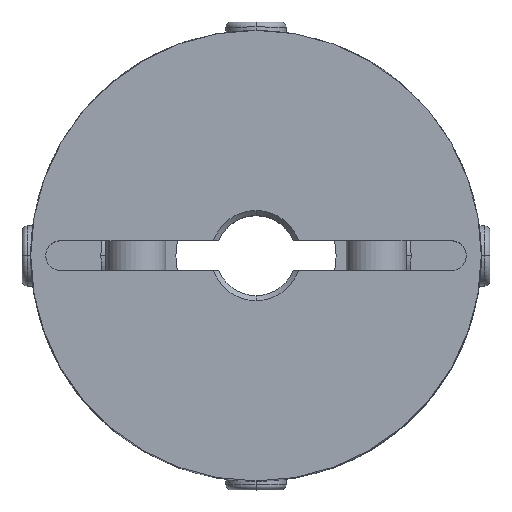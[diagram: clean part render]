
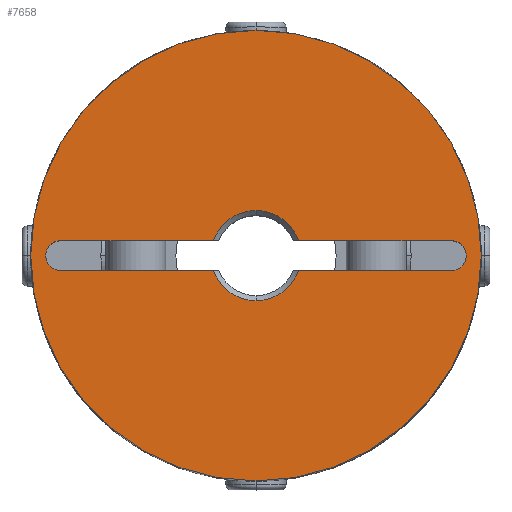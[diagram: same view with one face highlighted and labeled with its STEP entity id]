
A CAD part, top view. The second image highlights one B-rep face of the part: STEP entity #7658.
In plain terms, the highlighted planar face has unit normal (0, 0, 1).
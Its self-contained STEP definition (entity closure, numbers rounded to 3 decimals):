
#979=CARTESIAN_POINT('',(0.,22.5,22.5));
#980=VERTEX_POINT('',#979);
#987=CARTESIAN_POINT('',(0.,-22.5,22.5));
#988=VERTEX_POINT('',#987);
#989=CARTESIAN_POINT('',(0.0,0.0,22.5));
#990=DIRECTION('',(0.0,0.0,-1.0));
#991=DIRECTION('',(0.0,-1.0,0.0));
#992=AXIS2_PLACEMENT_3D('',#989,#990,#991);
#993=CIRCLE('',#992,22.5);
#994=EDGE_CURVE('',#980,#988,#993,.T.);
#1309=CARTESIAN_POINT('',(20.561,1.061,22.5));
#1310=VERTEX_POINT('',#1309);
#1326=CARTESIAN_POINT('',(19.5,-1.5,22.5));
#1327=VERTEX_POINT('',#1326);
#1334=CARTESIAN_POINT('',(19.5,0.,22.5));
#1335=DIRECTION('',(0.0,0.0,1.0));
#1336=DIRECTION('',(0.707,-0.707,0.0));
#1337=AXIS2_PLACEMENT_3D('',#1334,#1335,#1336);
#1338=CIRCLE('',#1337,1.5);
#1339=EDGE_CURVE('',#1327,#1310,#1338,.T.);
#1351=CARTESIAN_POINT('',(-20.561,-1.061,22.5));
#1352=VERTEX_POINT('',#1351);
#1368=CARTESIAN_POINT('',(-19.5,1.5,22.5));
#1369=VERTEX_POINT('',#1368);
#1376=CARTESIAN_POINT('',(-19.5,0.,22.5));
#1377=DIRECTION('',(0.0,0.0,1.0));
#1378=DIRECTION('',(-0.707,0.707,0.0));
#1379=AXIS2_PLACEMENT_3D('',#1376,#1377,#1378);
#1380=CIRCLE('',#1379,1.5);
#1381=EDGE_CURVE('',#1369,#1352,#1380,.T.);
#2105=CARTESIAN_POINT('',(0.,4.5,22.5));
#2106=VERTEX_POINT('',#2105);
#2114=CARTESIAN_POINT('',(4.243,1.5,22.5));
#2115=VERTEX_POINT('',#2114);
#2129=CARTESIAN_POINT('',(0.0,0.0,22.5));
#2130=DIRECTION('',(0.0,0.0,1.0));
#2131=DIRECTION('',(0.0,1.0,0.0));
#2132=AXIS2_PLACEMENT_3D('',#2129,#2130,#2131);
#2133=CIRCLE('',#2132,4.5);
#2134=EDGE_CURVE('',#2115,#2106,#2133,.T.);
#2144=CARTESIAN_POINT('',(0.,-4.5,22.5));
#2145=VERTEX_POINT('',#2144);
#2161=CARTESIAN_POINT('',(-4.243,-1.5,22.5));
#2162=VERTEX_POINT('',#2161);
#2176=CARTESIAN_POINT('',(0.0,0.0,22.5));
#2177=DIRECTION('',(0.0,0.0,1.0));
#2178=DIRECTION('',(0.0,-1.0,0.0));
#2179=AXIS2_PLACEMENT_3D('',#2176,#2177,#2178);
#2180=CIRCLE('',#2179,4.5);
#2181=EDGE_CURVE('',#2162,#2145,#2180,.T.);
#7396=CARTESIAN_POINT('',(19.5,1.5,22.5));
#7397=VERTEX_POINT('',#7396);
#7404=CARTESIAN_POINT('',(4.243,1.5,22.5));
#7405=DIRECTION('',(1.0,0.0,0.0));
#7406=VECTOR('',#7405,15.257);
#7407=LINE('',#7404,#7406);
#7408=EDGE_CURVE('',#2115,#7397,#7407,.T.);
#7543=CARTESIAN_POINT('',(4.243,-1.5,22.5));
#7544=VERTEX_POINT('',#7543);
#7558=CARTESIAN_POINT('',(19.5,-1.5,22.5));
#7559=DIRECTION('',(-1.0,0.0,0.0));
#7560=VECTOR('',#7559,15.257);
#7561=LINE('',#7558,#7560);
#7562=EDGE_CURVE('',#1327,#7544,#7561,.T.);
#7585=CARTESIAN_POINT('',(0.0,0.0,22.5));
#7586=DIRECTION('',(0.0,0.0,1.0));
#7587=DIRECTION('',(0.0,-1.0,0.0));
#7588=AXIS2_PLACEMENT_3D('',#7585,#7586,#7587);
#7589=CIRCLE('',#7588,4.5);
#7590=EDGE_CURVE('',#2145,#7544,#7589,.T.);
#7597=CARTESIAN_POINT('',(0.,-2.045,22.5));
#7598=DIRECTION('',(0.0,0.0,1.0));
#7599=DIRECTION('',(0.0,-1.0,0.0));
#7600=AXIS2_PLACEMENT_3D('',#7597,#7598,#7599);
#7601=PLANE('',#7600);
#7602=CARTESIAN_POINT('',(0.0,0.0,22.5));
#7603=DIRECTION('',(0.0,0.0,-1.0));
#7604=DIRECTION('',(0.0,-1.0,0.0));
#7605=AXIS2_PLACEMENT_3D('',#7602,#7603,#7604);
#7606=CIRCLE('',#7605,22.5);
#7607=EDGE_CURVE('',#988,#980,#7606,.T.);
#7608=ORIENTED_EDGE('',*,*,#7607,.F.);
#7609=ORIENTED_EDGE('',*,*,#994,.F.);
#7610=EDGE_LOOP('',(#7608,#7609));
#7611=FACE_OUTER_BOUND('',#7610,.T.);
#7612=ORIENTED_EDGE('',*,*,#2181,.F.);
#7613=CARTESIAN_POINT('',(-19.5,-1.5,22.5));
#7614=VERTEX_POINT('',#7613);
#7615=CARTESIAN_POINT('',(-4.243,-1.5,22.5));
#7616=DIRECTION('',(-1.0,0.0,0.0));
#7617=VECTOR('',#7616,15.257);
#7618=LINE('',#7615,#7617);
#7619=EDGE_CURVE('',#2162,#7614,#7618,.T.);
#7620=ORIENTED_EDGE('',*,*,#7619,.T.);
#7621=CARTESIAN_POINT('',(-19.5,0.,22.5));
#7622=DIRECTION('',(0.0,0.0,1.0));
#7623=DIRECTION('',(-0.707,0.707,0.0));
#7624=AXIS2_PLACEMENT_3D('',#7621,#7622,#7623);
#7625=CIRCLE('',#7624,1.5);
#7626=EDGE_CURVE('',#1352,#7614,#7625,.T.);
#7627=ORIENTED_EDGE('',*,*,#7626,.F.);
#7628=ORIENTED_EDGE('',*,*,#1381,.F.);
#7629=CARTESIAN_POINT('',(-4.243,1.5,22.5));
#7630=VERTEX_POINT('',#7629);
#7631=CARTESIAN_POINT('',(-19.5,1.5,22.5));
#7632=DIRECTION('',(1.0,0.0,0.0));
#7633=VECTOR('',#7632,15.257);
#7634=LINE('',#7631,#7633);
#7635=EDGE_CURVE('',#1369,#7630,#7634,.T.);
#7636=ORIENTED_EDGE('',*,*,#7635,.T.);
#7637=CARTESIAN_POINT('',(0.0,0.0,22.5));
#7638=DIRECTION('',(0.0,0.0,1.0));
#7639=DIRECTION('',(0.0,1.0,0.0));
#7640=AXIS2_PLACEMENT_3D('',#7637,#7638,#7639);
#7641=CIRCLE('',#7640,4.5);
#7642=EDGE_CURVE('',#2106,#7630,#7641,.T.);
#7643=ORIENTED_EDGE('',*,*,#7642,.F.);
#7644=ORIENTED_EDGE('',*,*,#2134,.F.);
#7645=ORIENTED_EDGE('',*,*,#7408,.T.);
#7646=CARTESIAN_POINT('',(19.5,0.,22.5));
#7647=DIRECTION('',(0.0,0.0,1.0));
#7648=DIRECTION('',(0.707,-0.707,0.0));
#7649=AXIS2_PLACEMENT_3D('',#7646,#7647,#7648);
#7650=CIRCLE('',#7649,1.5);
#7651=EDGE_CURVE('',#1310,#7397,#7650,.T.);
#7652=ORIENTED_EDGE('',*,*,#7651,.F.);
#7653=ORIENTED_EDGE('',*,*,#1339,.F.);
#7654=ORIENTED_EDGE('',*,*,#7562,.T.);
#7655=ORIENTED_EDGE('',*,*,#7590,.F.);
#7656=EDGE_LOOP('',(#7612,#7620,#7627,#7628,#7636,#7643,#7644,#7645,#7652,#7653,#7654,#7655));
#7657=FACE_BOUND('',#7656,.T.);
#7658=ADVANCED_FACE('',(#7611,#7657),#7601,.T.);
